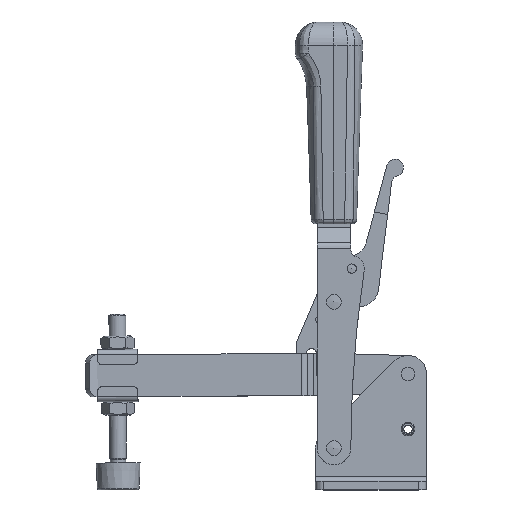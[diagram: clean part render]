
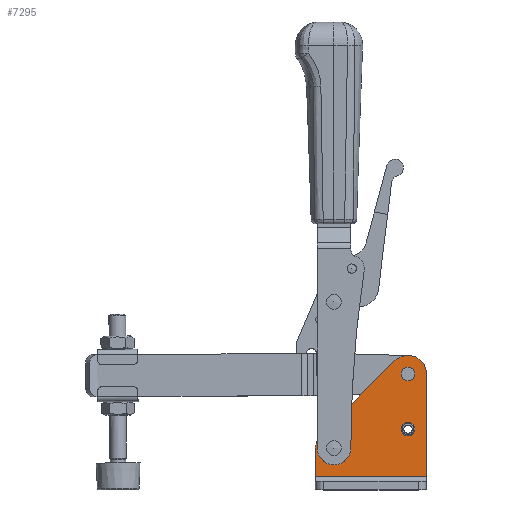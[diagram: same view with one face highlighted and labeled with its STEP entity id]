
A CAD part, top view. The second image highlights one B-rep face of the part: STEP entity #7295.
In plain terms, the highlighted planar face has unit normal (0, 0, 1).
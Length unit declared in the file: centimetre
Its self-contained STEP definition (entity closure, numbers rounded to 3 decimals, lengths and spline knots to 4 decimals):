
#216=FACE_BOUND($,#1547,.T.);
#217=FACE_BOUND($,#1548,.T.);
#218=FACE_BOUND($,#1549,.T.);
#488=CIRCLE($,#7907,1.1);
#489=CIRCLE($,#7908,1.1);
#490=CIRCLE($,#7909,0.4);
#491=CIRCLE($,#7910,0.4);
#492=CIRCLE($,#7911,0.6);
#1095=FACE_OUTER_BOUND($,#1546,.T.);
#1546=EDGE_LOOP($,(#5211,#5212,#5213,#5214,#5215,#5216));
#1547=EDGE_LOOP($,(#5217));
#1548=EDGE_LOOP($,(#5218));
#1549=EDGE_LOOP($,(#5219));
#2231=LINE($,#11263,#2741);
#2235=LINE($,#11275,#2745);
#2238=LINE($,#11282,#2748);
#2240=LINE($,#11289,#2750);
#2741=VECTOR($,#8969,1.);
#2745=VECTOR($,#8981,1.);
#2748=VECTOR($,#8988,1.);
#2750=VECTOR($,#8996,1.);
#3258=VERTEX_POINT($,#11260);
#3259=VERTEX_POINT($,#11262);
#3262=VERTEX_POINT($,#11272);
#3263=VERTEX_POINT($,#11274);
#3266=VERTEX_POINT($,#11286);
#3267=VERTEX_POINT($,#11288);
#3268=VERTEX_POINT($,#11291);
#3269=VERTEX_POINT($,#11293);
#3270=VERTEX_POINT($,#11295);
#4023=EDGE_CURVE($,#3258,#3259,#2231,.T.);
#4029=EDGE_CURVE($,#3262,#3263,#2235,.T.);
#4033=EDGE_CURVE($,#3262,#3259,#2238,.T.);
#4035=EDGE_CURVE($,#3266,#3258,#488,.T.);
#4036=EDGE_CURVE($,#3267,#3266,#2240,.T.);
#4037=EDGE_CURVE($,#3263,#3267,#489,.T.);
#4038=EDGE_CURVE($,#3268,#3268,#490,.T.);
#4039=EDGE_CURVE($,#3269,#3269,#491,.T.);
#4040=EDGE_CURVE($,#3270,#3270,#492,.T.);
#5211=ORIENTED_EDGE($,*,*,#4033,.T.);
#5212=ORIENTED_EDGE($,*,*,#4023,.F.);
#5213=ORIENTED_EDGE($,*,*,#4035,.F.);
#5214=ORIENTED_EDGE($,*,*,#4036,.F.);
#5215=ORIENTED_EDGE($,*,*,#4037,.F.);
#5216=ORIENTED_EDGE($,*,*,#4029,.F.);
#5217=ORIENTED_EDGE($,*,*,#4038,.T.);
#5218=ORIENTED_EDGE($,*,*,#4039,.T.);
#5219=ORIENTED_EDGE($,*,*,#4040,.T.);
#7044=PLANE($,#7906);
#7295=ADVANCED_FACE($,(#1095,#216,#217,#218),#7044,.T.);
#7906=AXIS2_PLACEMENT_3D($,#11285,#8992,#8993);
#7907=AXIS2_PLACEMENT_3D($,#11287,#8994,#8995);
#7908=AXIS2_PLACEMENT_3D($,#11290,#8997,#8998);
#7909=AXIS2_PLACEMENT_3D($,#11292,#8999,#9000);
#7910=AXIS2_PLACEMENT_3D($,#11294,#9001,#9002);
#7911=AXIS2_PLACEMENT_3D($,#11296,#9003,#9004);
#8969=DIRECTION($,(0.,-1.,0.));
#8981=DIRECTION($,(0.,1.,0.));
#8988=DIRECTION($,(1.,0.,0.));
#8992=DIRECTION('center_axis',(0.,0.,
1.));
#8993=DIRECTION('ref_axis',(1.,0.,0.));
#8994=DIRECTION('center_axis',(0.,0.,
-1.));
#8995=DIRECTION('ref_axis',(1.,0.,0.));
#8996=DIRECTION($,(0.707,0.707,0.));
#8997=DIRECTION('center_axis',(0.,0.,
-1.));
#8998=DIRECTION('ref_axis',(-0.707,0.707,0.));
#8999=DIRECTION('center_axis',(0.,0.,
-1.));
#9000=DIRECTION('ref_axis',(-1.,0.,0.));
#9001=DIRECTION('center_axis',(0.,0.,
-1.));
#9002=DIRECTION('ref_axis',(-1.,0.,0.));
#9003=DIRECTION('center_axis',(0.,0.,
-1.));
#9004=DIRECTION('ref_axis',(-1.,0.,0.));
#11260=CARTESIAN_POINT('',(1.1,0.,1.));
#11262=CARTESIAN_POINT('',(1.1,-6.08,1.));
#11263=CARTESIAN_POINT($,(1.1,-6.88,1.));
#11272=CARTESIAN_POINT('',(-5.5,-6.08,1.));
#11274=CARTESIAN_POINT('',(-5.5,-4.4,1.));
#11275=CARTESIAN_POINT($,(-5.5,-4.4,1.));
#11282=CARTESIAN_POINT($,(-0.2878,-6.08,1.));
#11285=CARTESIAN_POINT('Origin',(-1.6757,-3.643,1.));
#11286=CARTESIAN_POINT('',(-0.7778,0.7778,1.));
#11287=CARTESIAN_POINT('Origin',(0.,0.,
1.));
#11288=CARTESIAN_POINT('',(-5.1778,-3.6222,1.));
#11289=CARTESIAN_POINT($,(-0.7778,0.7778,1.));
#11290=CARTESIAN_POINT('Origin',(-4.4,-4.4,1.));
#11291=CARTESIAN_POINT('',(0.4,0.,1.));
#11292=CARTESIAN_POINT('Origin',(0.,0.,
1.));
#11293=CARTESIAN_POINT('',(0.4,-3.277,1.));
#11294=CARTESIAN_POINT('Origin',(0.,-3.277,
1.));
#11295=CARTESIAN_POINT('',(-3.8,-4.4,1.));
#11296=CARTESIAN_POINT('Origin',(-4.4,-4.4,1.));
